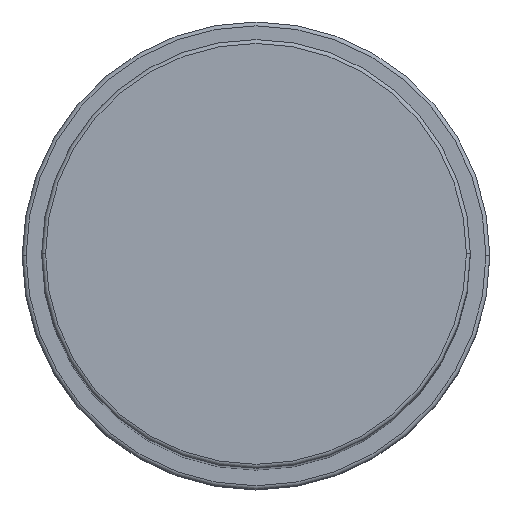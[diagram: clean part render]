
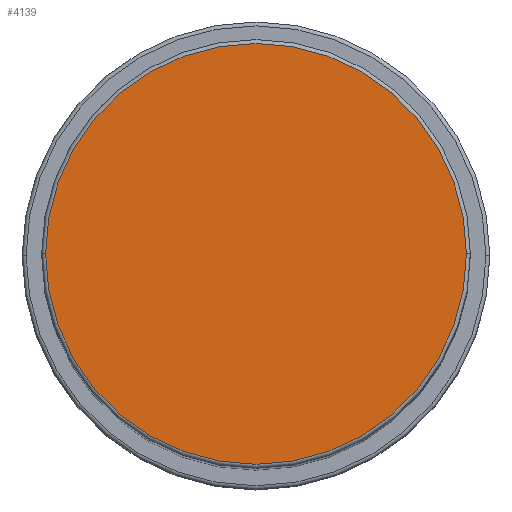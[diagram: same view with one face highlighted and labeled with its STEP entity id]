
A CAD part, top view. The second image highlights one B-rep face of the part: STEP entity #4139.
In plain terms, the highlighted planar face has unit normal (0, 0, 1).
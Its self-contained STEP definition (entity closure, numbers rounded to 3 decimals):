
#155 = FACE_OUTER_BOUND ( 'NONE', #3964, .T. ) ;
#173 = CARTESIAN_POINT ( 'NONE',  ( 0., 0., 153. ) ) ;
#282 = VERTEX_POINT ( 'NONE', #1913 ) ;
#521 = CARTESIAN_POINT ( 'NONE',  ( 0., 0., 153. ) ) ;
#903 = CIRCLE ( 'NONE', #3918, 27. ) ;
#1017 = CIRCLE ( 'NONE', #1895, 27. ) ;
#1280 = DIRECTION ( 'NONE',  ( 1., 0., 0. ) ) ;
#1297 = DIRECTION ( 'NONE',  ( 0., 0., 1. ) ) ;
#1427 = DIRECTION ( 'NONE',  ( 0., 0., 1. ) ) ;
#1695 = VERTEX_POINT ( 'NONE', #4057 ) ;
#1883 = ORIENTED_EDGE ( 'NONE', *, *, #4199, .T. ) ;
#1895 = AXIS2_PLACEMENT_3D ( 'NONE', #3739, #1427, #2505 ) ;
#1913 = CARTESIAN_POINT ( 'NONE',  ( 27., 0., 153. ) ) ;
#2063 = DIRECTION ( 'NONE',  ( 0., 0., 1. ) ) ;
#2429 = EDGE_CURVE ( 'NONE', #282, #1695, #1017, .T. ) ;
#2505 = DIRECTION ( 'NONE',  ( 1., 0., 0. ) ) ;
#2550 = ORIENTED_EDGE ( 'NONE', *, *, #2429, .T. ) ;
#2978 = AXIS2_PLACEMENT_3D ( 'NONE', #521, #2063, #1280 ) ;
#3586 = PLANE ( 'NONE',  #2978 ) ;
#3739 = CARTESIAN_POINT ( 'NONE',  ( 0., 0., 153. ) ) ;
#3918 = AXIS2_PLACEMENT_3D ( 'NONE', #173, #1297, #3997 ) ;
#3964 = EDGE_LOOP ( 'NONE', ( #2550, #1883 ) ) ;
#3997 = DIRECTION ( 'NONE',  ( 1., 0., 0. ) ) ;
#4057 = CARTESIAN_POINT ( 'NONE',  ( -27., 0., 153. ) ) ;
#4139 = ADVANCED_FACE ( 'NONE', ( #155 ), #3586, .T. ) ;
#4199 = EDGE_CURVE ( 'NONE', #1695, #282, #903, .T. ) ;
